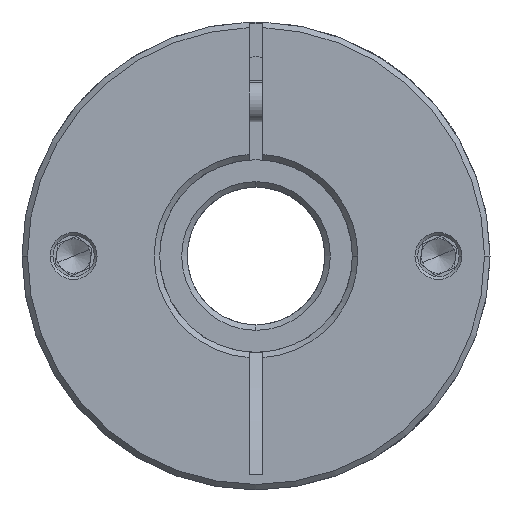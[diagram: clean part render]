
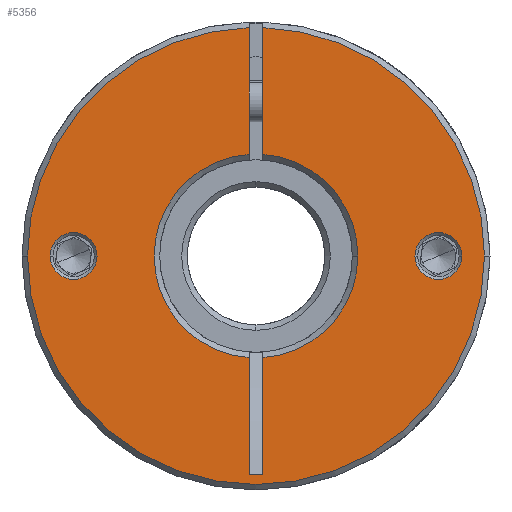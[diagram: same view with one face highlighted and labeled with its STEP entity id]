
A CAD part, front view. The second image highlights one B-rep face of the part: STEP entity #5356.
In plain terms, the highlighted planar face has unit normal (0, -1, 0).
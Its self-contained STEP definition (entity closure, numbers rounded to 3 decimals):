
#79 = VERTEX_POINT ( 'NONE', #7200 ) ;
#207 = ORIENTED_EDGE ( 'NONE', *, *, #5232, .T. ) ;
#272 = ORIENTED_EDGE ( 'NONE', *, *, #7588, .T. ) ;
#309 = EDGE_LOOP ( 'NONE', ( #11228, #5778 ) ) ;
#317 = AXIS2_PLACEMENT_3D ( 'NONE', #12201, #692, #10071 ) ;
#457 = CARTESIAN_POINT ( 'NONE',  ( -29.235, -47.045, 68. ) ) ;
#503 = AXIS2_PLACEMENT_3D ( 'NONE', #9135, #13354, #7061 ) ;
#557 = EDGE_CURVE ( 'NONE', #5599, #9788, #10206, .T. ) ;
#690 = EDGE_CURVE ( 'NONE', #5226, #3160, #1289, .T. ) ;
#692 = DIRECTION ( 'NONE',  ( 0., 1., 0. ) ) ;
#712 = EDGE_CURVE ( 'NONE', #12415, #9115, #3082, .T. ) ;
#806 = LINE ( 'NONE', #3435, #12527 ) ;
#1030 = VERTEX_POINT ( 'NONE', #7566 ) ;
#1237 = DIRECTION ( 'NONE',  ( 0., 0., -1. ) ) ;
#1289 = CIRCLE ( 'NONE', #12533, 14.8 ) ;
#1398 = VECTOR ( 'NONE', #2479, 1000. ) ;
#1492 = CARTESIAN_POINT ( 'NONE',  ( -2.735, -47.045, 68. ) ) ;
#1535 = ORIENTED_EDGE ( 'NONE', *, *, #690, .T. ) ;
#1676 = ORIENTED_EDGE ( 'NONE', *, *, #2579, .F. ) ;
#1882 = ORIENTED_EDGE ( 'NONE', *, *, #712, .T. ) ;
#1918 = VECTOR ( 'NONE', #6950, 1000. ) ;
#1936 = EDGE_CURVE ( 'NONE', #1030, #9543, #5997, .T. ) ;
#2073 = ORIENTED_EDGE ( 'NONE', *, *, #5474, .T. ) ;
#2075 = ORIENTED_EDGE ( 'NONE', *, *, #7288, .T. ) ;
#2479 = DIRECTION ( 'NONE',  ( 0., 0., -1. ) ) ;
#2501 = VERTEX_POINT ( 'NONE', #5283 ) ;
#2579 = EDGE_CURVE ( 'NONE', #2501, #9788, #806, .T. ) ;
#2661 = CARTESIAN_POINT ( 'NONE',  ( 20.365, -47.045, 68. ) ) ;
#3037 = FACE_BOUND ( 'NONE', #5457, .T. ) ;
#3082 = CIRCLE ( 'NONE', #317, 3.4 ) ;
#3160 = VERTEX_POINT ( 'NONE', #3980 ) ;
#3197 = CIRCLE ( 'NONE', #4131, 33.2 ) ;
#3286 = DIRECTION ( 'NONE',  ( -1., 0., 0. ) ) ;
#3381 = AXIS2_PLACEMENT_3D ( 'NONE', #12797, #4354, #8522 ) ;
#3432 = EDGE_CURVE ( 'NONE', #10999, #5226, #7883, .T. ) ;
#3435 = CARTESIAN_POINT ( 'NONE',  ( -3.735, -47.045, 68. ) ) ;
#3500 = CARTESIAN_POINT ( 'NONE',  ( 30.465, -47.045, 68. ) ) ;
#3667 = CARTESIAN_POINT ( 'NONE',  ( -32.635, -47.045, 68. ) ) ;
#3871 = VERTEX_POINT ( 'NONE', #5520 ) ;
#3954 = CIRCLE ( 'NONE', #9167, 14.8 ) ;
#3980 = CARTESIAN_POINT ( 'NONE',  ( -1.735, -47.045, 53.234 ) ) ;
#4001 = DIRECTION ( 'NONE',  ( 1., 0., 0. ) ) ;
#4059 = ORIENTED_EDGE ( 'NONE', *, *, #1936, .F. ) ;
#4131 = AXIS2_PLACEMENT_3D ( 'NONE', #5646, #11806, #5596 ) ;
#4354 = DIRECTION ( 'NONE',  ( 0., 1., 0. ) ) ;
#4462 = AXIS2_PLACEMENT_3D ( 'NONE', #8329, #11632, #9542 ) ;
#4909 = CIRCLE ( 'NONE', #503, 33.2 ) ;
#4951 = ORIENTED_EDGE ( 'NONE', *, *, #5497, .T. ) ;
#4965 = DIRECTION ( 'NONE',  ( 0., 1., 0. ) ) ;
#5226 = VERTEX_POINT ( 'NONE', #13195 ) ;
#5232 = EDGE_CURVE ( 'NONE', #3160, #5599, #7038, .T. ) ;
#5254 = CARTESIAN_POINT ( 'NONE',  ( -3.735, -47.045, 68. ) ) ;
#5283 = CARTESIAN_POINT ( 'NONE',  ( -3.735, -47.045, 53.234 ) ) ;
#5356 = ADVANCED_FACE ( 'NONE', ( #10161, #3037, #13114 ), #10212, .T. ) ;
#5457 = EDGE_LOOP ( 'NONE', ( #1882, #4951 ) ) ;
#5474 = EDGE_CURVE ( 'NONE', #5518, #8089, #3197, .T. ) ;
#5497 = EDGE_CURVE ( 'NONE', #9115, #12415, #9169, .T. ) ;
#5518 = VERTEX_POINT ( 'NONE', #3500 ) ;
#5520 = CARTESIAN_POINT ( 'NONE',  ( -35.935, -47.045, 68. ) ) ;
#5560 = EDGE_LOOP ( 'NONE', ( #4059, #2075, #5564, #2073, #13402, #8590, #1535, #207, #8034, #1676, #272 ) ) ;
#5564 = ORIENTED_EDGE ( 'NONE', *, *, #7718, .T. ) ;
#5596 = DIRECTION ( 'NONE',  ( 1., 0., 0. ) ) ;
#5599 = VERTEX_POINT ( 'NONE', #8762 ) ;
#5646 = CARTESIAN_POINT ( 'NONE',  ( -2.735, -47.045, 68. ) ) ;
#5778 = ORIENTED_EDGE ( 'NONE', *, *, #7606, .T. ) ;
#5977 = CARTESIAN_POINT ( 'NONE',  ( 23.765, -47.045, 68. ) ) ;
#5997 = LINE ( 'NONE', #5254, #9905 ) ;
#6109 = AXIS2_PLACEMENT_3D ( 'NONE', #5977, #6975, #6885 ) ;
#6251 = EDGE_CURVE ( 'NONE', #8089, #10999, #13257, .T. ) ;
#6535 = DIRECTION ( 'NONE',  ( 0., 1., 0. ) ) ;
#6688 = DIRECTION ( 'NONE',  ( 1., 0., 0. ) ) ;
#6742 = DIRECTION ( 'NONE',  ( 1., 0., 0. ) ) ;
#6873 = VERTEX_POINT ( 'NONE', #2661 ) ;
#6885 = DIRECTION ( 'NONE',  ( 1., 0., 0. ) ) ;
#6950 = DIRECTION ( 'NONE',  ( 0., 0., -1. ) ) ;
#6975 = DIRECTION ( 'NONE',  ( 0., 1., 0. ) ) ;
#7038 = LINE ( 'NONE', #7907, #1918 ) ;
#7061 = DIRECTION ( 'NONE',  ( 1., 0., 0. ) ) ;
#7200 = CARTESIAN_POINT ( 'NONE',  ( 27.165, -47.045, 68. ) ) ;
#7288 = EDGE_CURVE ( 'NONE', #1030, #3871, #9124, .T. ) ;
#7566 = CARTESIAN_POINT ( 'NONE',  ( -3.735, -47.045, 101.185 ) ) ;
#7588 = EDGE_CURVE ( 'NONE', #2501, #9543, #3954, .T. ) ;
#7606 = EDGE_CURVE ( 'NONE', #6873, #79, #9427, .T. ) ;
#7660 = DIRECTION ( 'NONE',  ( 1., 0., 0. ) ) ;
#7718 = EDGE_CURVE ( 'NONE', #3871, #5518, #4909, .T. ) ;
#7883 = CIRCLE ( 'NONE', #10426, 14.8 ) ;
#7907 = CARTESIAN_POINT ( 'NONE',  ( -1.735, -47.045, 68. ) ) ;
#8012 = CARTESIAN_POINT ( 'NONE',  ( -2.735, -47.045, 68. ) ) ;
#8034 = ORIENTED_EDGE ( 'NONE', *, *, #557, .T. ) ;
#8089 = VERTEX_POINT ( 'NONE', #10904 ) ;
#8204 = DIRECTION ( 'NONE',  ( 0., -1., 0. ) ) ;
#8329 = CARTESIAN_POINT ( 'NONE',  ( -2.735, -47.045, 68. ) ) ;
#8445 = DIRECTION ( 'NONE',  ( 0., 0., -1. ) ) ;
#8470 = CARTESIAN_POINT ( 'NONE',  ( -3.735, -47.045, 36.279 ) ) ;
#8522 = DIRECTION ( 'NONE',  ( 1., 0., 0. ) ) ;
#8590 = ORIENTED_EDGE ( 'NONE', *, *, #3432, .T. ) ;
#8762 = CARTESIAN_POINT ( 'NONE',  ( -1.735, -47.045, 36.279 ) ) ;
#9115 = VERTEX_POINT ( 'NONE', #3667 ) ;
#9124 = CIRCLE ( 'NONE', #12521, 33.2 ) ;
#9135 = CARTESIAN_POINT ( 'NONE',  ( -2.735, -47.045, 68. ) ) ;
#9167 = AXIS2_PLACEMENT_3D ( 'NONE', #8012, #4965, #10132 ) ;
#9169 = CIRCLE ( 'NONE', #11506, 3.4 ) ;
#9251 = CARTESIAN_POINT ( 'NONE',  ( -2.735, -47.045, 68. ) ) ;
#9427 = CIRCLE ( 'NONE', #6109, 3.4 ) ;
#9453 = EDGE_CURVE ( 'NONE', #79, #6873, #11749, .T. ) ;
#9542 = DIRECTION ( 'NONE',  ( 1., 0., 0. ) ) ;
#9543 = VERTEX_POINT ( 'NONE', #11784 ) ;
#9788 = VERTEX_POINT ( 'NONE', #10445 ) ;
#9905 = VECTOR ( 'NONE', #1237, 1000. ) ;
#10040 = VECTOR ( 'NONE', #3286, 1000. ) ;
#10071 = DIRECTION ( 'NONE',  ( 1., 0., 0. ) ) ;
#10132 = DIRECTION ( 'NONE',  ( 1., 0., 0. ) ) ;
#10161 = FACE_BOUND ( 'NONE', #309, .T. ) ;
#10206 = LINE ( 'NONE', #8470, #10040 ) ;
#10212 = PLANE ( 'NONE',  #4462 ) ;
#10426 = AXIS2_PLACEMENT_3D ( 'NONE', #1492, #11980, #6742 ) ;
#10445 = CARTESIAN_POINT ( 'NONE',  ( -3.735, -47.045, 36.279 ) ) ;
#10578 = CARTESIAN_POINT ( 'NONE',  ( -2.735, -47.045, 68. ) ) ;
#10671 = CARTESIAN_POINT ( 'NONE',  ( -1.735, -47.045, 68. ) ) ;
#10904 = CARTESIAN_POINT ( 'NONE',  ( -1.735, -47.045, 101.185 ) ) ;
#10999 = VERTEX_POINT ( 'NONE', #12078 ) ;
#11228 = ORIENTED_EDGE ( 'NONE', *, *, #9453, .T. ) ;
#11506 = AXIS2_PLACEMENT_3D ( 'NONE', #457, #6535, #7660 ) ;
#11632 = DIRECTION ( 'NONE',  ( 0., -1., 0. ) ) ;
#11749 = CIRCLE ( 'NONE', #3381, 3.4 ) ;
#11784 = CARTESIAN_POINT ( 'NONE',  ( -3.735, -47.045, 82.766 ) ) ;
#11806 = DIRECTION ( 'NONE',  ( 0., -1., 0. ) ) ;
#11980 = DIRECTION ( 'NONE',  ( 0., 1., 0. ) ) ;
#12078 = CARTESIAN_POINT ( 'NONE',  ( -1.735, -47.045, 82.766 ) ) ;
#12201 = CARTESIAN_POINT ( 'NONE',  ( -29.235, -47.045, 68. ) ) ;
#12415 = VERTEX_POINT ( 'NONE', #13250 ) ;
#12521 = AXIS2_PLACEMENT_3D ( 'NONE', #9251, #8204, #4001 ) ;
#12527 = VECTOR ( 'NONE', #8445, 1000. ) ;
#12533 = AXIS2_PLACEMENT_3D ( 'NONE', #10578, #12876, #6688 ) ;
#12797 = CARTESIAN_POINT ( 'NONE',  ( 23.765, -47.045, 68. ) ) ;
#12876 = DIRECTION ( 'NONE',  ( 0., 1., 0. ) ) ;
#13114 = FACE_OUTER_BOUND ( 'NONE', #5560, .T. ) ;
#13195 = CARTESIAN_POINT ( 'NONE',  ( 12.065, -47.045, 68. ) ) ;
#13250 = CARTESIAN_POINT ( 'NONE',  ( -25.835, -47.045, 68. ) ) ;
#13257 = LINE ( 'NONE', #10671, #1398 ) ;
#13354 = DIRECTION ( 'NONE',  ( 0., -1., 0. ) ) ;
#13402 = ORIENTED_EDGE ( 'NONE', *, *, #6251, .T. ) ;
